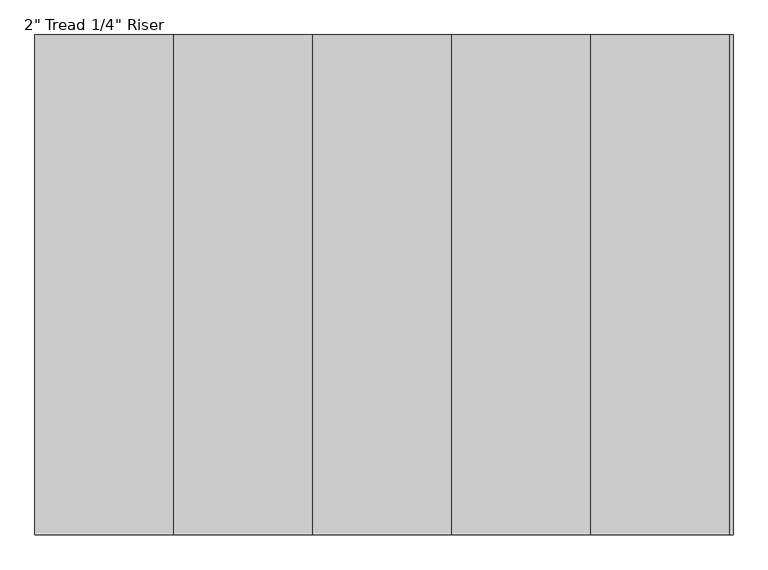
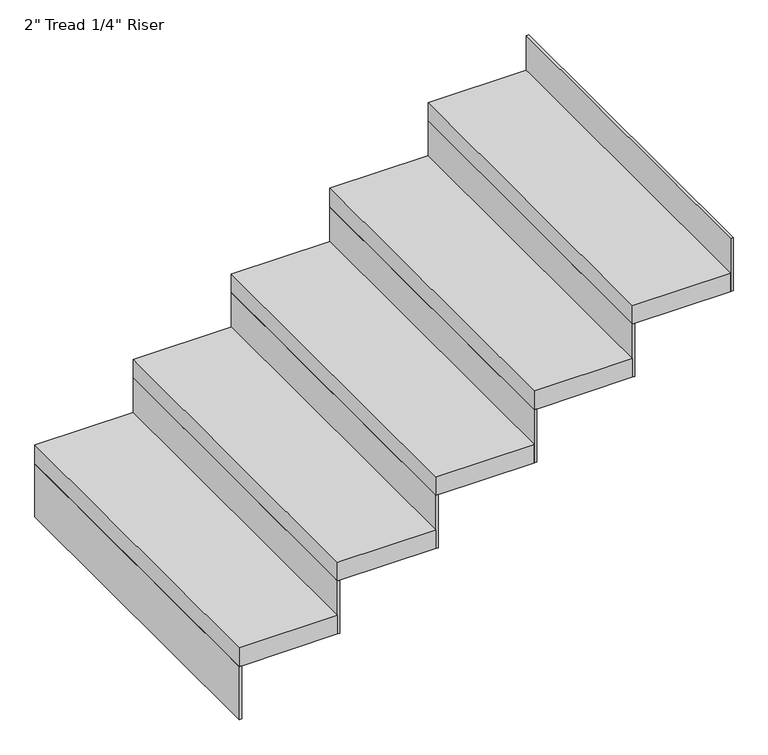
"""IFC4 building model written with IfcOpenShell, lengths in millimetres: stair flight geometry."""

from ifc_helpers import new_model, si_unit, frame, origin, place, context, project, spatial, polyline, outline, extrude, source, transform, mapped, element, save


def stair_flight_74420b91(model_context):
    return source(origin(), model_context, "Body", "SweptSolid", [
        extrude(outline(polyline([(89352.2645262, 15846.0395941), (89345.9145262, 15846.0395941), (89345.9145262, 16760.4395941), (89352.2645262, 16760.4395941), (89352.2645262, 15846.0395941)])), frame((0.0, 0.0, 2126.3428571), z_axis=(0.0, 0.0, 1.0), x_axis=(1.0, 0.0, 0.0)), (0.0, 0.0, 1.0), 145.1428571),
        extrude(outline(polyline([(89599.9145262, 16760.4395941), (89599.9145262, 15846.0395941), (89345.9145262, 15846.0395941), (89345.9145262, 16760.4395941), (89599.9145262, 16760.4395941)])), frame((0.0, 0.0, 2271.4857143), z_axis=(0.0, 0.0, 1.0), x_axis=(1.0, 0.0, 0.0)), (0.0, 0.0, 1.0), 50.8),
        extrude(outline(polyline([(89606.2645262, 15846.0395941), (89599.9145262, 15846.0395941), (89599.9145262, 16760.4395941), (89606.2645262, 16760.4395941), (89606.2645262, 15846.0395941)])), frame((0.0, 0.0, 2271.4857143), z_axis=(0.0, 0.0, 1.0), x_axis=(1.0, 0.0, 0.0)), (0.0, 0.0, 1.0), 145.1428571),
        extrude(outline(polyline([(89853.9145262, 16760.4395941), (89853.9145262, 15846.0395941), (89599.9145262, 15846.0395941), (89599.9145262, 16760.4395941), (89853.9145262, 16760.4395941)])), frame((0.0, 0.0, 2416.6285714), z_axis=(0.0, 0.0, 1.0), x_axis=(1.0, 0.0, 0.0)), (0.0, 0.0, 1.0), 50.8),
        extrude(outline(polyline([(89860.2645262, 15846.0395941), (89853.9145262, 15846.0395941), (89853.9145262, 16760.4395941), (89860.2645262, 16760.4395941), (89860.2645262, 15846.0395941)])), frame((0.0, 0.0, 2416.6285714), z_axis=(0.0, 0.0, 1.0), x_axis=(1.0, 0.0, 0.0)), (0.0, 0.0, 1.0), 145.1428571),
        extrude(outline(polyline([(90107.9145262, 16760.4395941), (90107.9145262, 15846.0395941), (89853.9145262, 15846.0395941), (89853.9145262, 16760.4395941), (90107.9145262, 16760.4395941)])), frame((0.0, 0.0, 2561.7714286), z_axis=(0.0, 0.0, 1.0), x_axis=(1.0, 0.0, 0.0)), (0.0, 0.0, 1.0), 50.8),
        extrude(outline(polyline([(90114.2645262, 15846.0395941), (90107.9145262, 15846.0395941), (90107.9145262, 16760.4395941), (90114.2645262, 16760.4395941), (90114.2645262, 15846.0395941)])), frame((0.0, 0.0, 2561.7714286), z_axis=(0.0, 0.0, 1.0), x_axis=(1.0, 0.0, 0.0)), (0.0, 0.0, 1.0), 145.1428571),
        extrude(outline(polyline([(90361.9145262, 16760.4395941), (90361.9145262, 15846.0395941), (90107.9145262, 15846.0395941), (90107.9145262, 16760.4395941), (90361.9145262, 16760.4395941)])), frame((0.0, 0.0, 2706.9142857), z_axis=(0.0, 0.0, 1.0), x_axis=(1.0, 0.0, 0.0)), (0.0, 0.0, 1.0), 50.8),
        extrude(outline(polyline([(90368.2645262, 15846.0395941), (90361.9145262, 15846.0395941), (90361.9145262, 16760.4395941), (90368.2645262, 16760.4395941), (90368.2645262, 15846.0395941)])), frame((0.0, 0.0, 2706.9142857), z_axis=(0.0, 0.0, 1.0), x_axis=(1.0, 0.0, 0.0)), (0.0, 0.0, 1.0), 145.1428571),
        extrude(outline(polyline([(90622.2645262, 15846.0395941), (90615.9145262, 15846.0395941), (90615.9145262, 16760.4395941), (90622.2645262, 16760.4395941), (90622.2645262, 15846.0395941)])), frame((0.0, 0.0, 2852.0571429), z_axis=(0.0, 0.0, 1.0), x_axis=(1.0, 0.0, 0.0)), (0.0, 0.0, 1.0), 145.1428571),
        extrude(outline(polyline([(90615.9145262, 16760.4395941), (90615.9145262, 15846.0395941), (90361.9145262, 15846.0395941), (90361.9145262, 16760.4395941), (90615.9145262, 16760.4395941)])), frame((0.0, 0.0, 2852.0571429), z_axis=(0.0, 0.0, 1.0), x_axis=(1.0, 0.0, 0.0)), (0.0, 0.0, 1.0), 50.8),
    ])


if __name__ == "__main__":
    model = new_model("IFC4")
    model_context = context("Model", 3, world=origin())
    ifc_project = project(units=[si_unit("LENGTHUNIT", "METRE", prefix="MILLI")], contexts=[model_context])
    site = spatial("IfcSite", under=ifc_project)
    building = spatial("IfcBuilding", under=site)
    placement = place(None, origin())
    stair_flight_shape = stair_flight_74420b91(model_context)
    element("IfcStairFlight", 1, ObjectType="2\" Tread 1/4\" Riser", at=placement, inside=building, context=model_context, shape_type="MappedRepresentation", body=[
        mapped(stair_flight_shape, transform((0.0, 0.0, 0.0), x_axis=(1.0, 0.0, 0.0), y_axis=(0.0, 1.0, 0.0), z_axis=(0.0, 0.0, 1.0))),
    ])
    save(model, "model.ifc")
